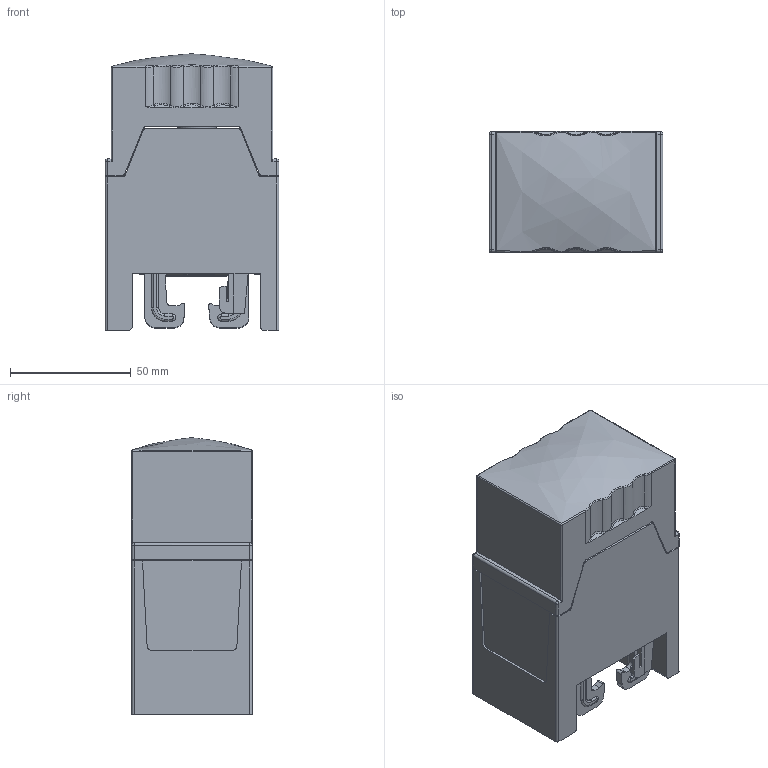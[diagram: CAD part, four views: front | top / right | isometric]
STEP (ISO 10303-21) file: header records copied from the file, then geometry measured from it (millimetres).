
FILE_DESCRIPTION (( 'STEP AP203' ), '1' );
FILE_NAME ('54318-54761.STEP', '2021-08-13T03:15:37', ( '' ), ( '' ), 'SwSTEP 2.0', 'SolidWorks 2017', '' );
FILE_SCHEMA (( 'CONFIG_CONTROL_DESIGN' ));
Length unit declared in the file: millimetre
Products named in the file (2): 54318-54761
Bounding box: 72 x 50 x 114.56 mm (x, y, z)
Surface area: 59108.1 mm2 (no closed solid volume)
Topology: 0 solids, 2 shells, 1265 faces, 3323 edges, 2097 vertices
Faces by surface type: plane 664, cylinder 311, bspline 276, torus 6, sphere 6, cone 2
Full cylindrical faces by diameter (mm): 16 x1
Entity records: 48780 total; most frequent: CARTESIAN_POINT 21607, ORIENTED_EDGE 6578, DIRECTION 4328, EDGE_CURVE 3303, VERTEX_POINT 2096, LINE 1570, VECTOR 1570, AXIS2_PLACEMENT_3D 1379
